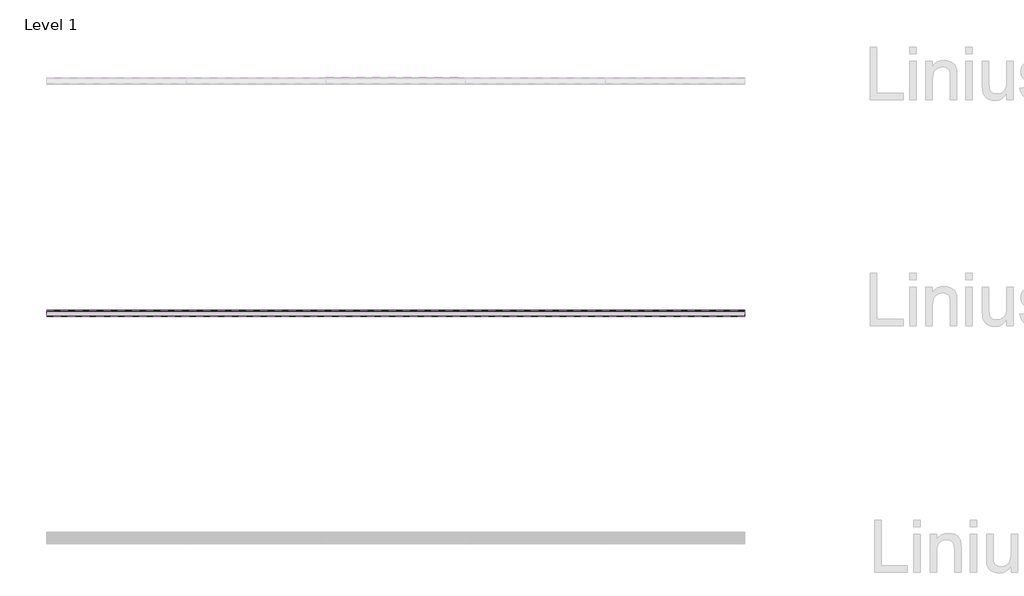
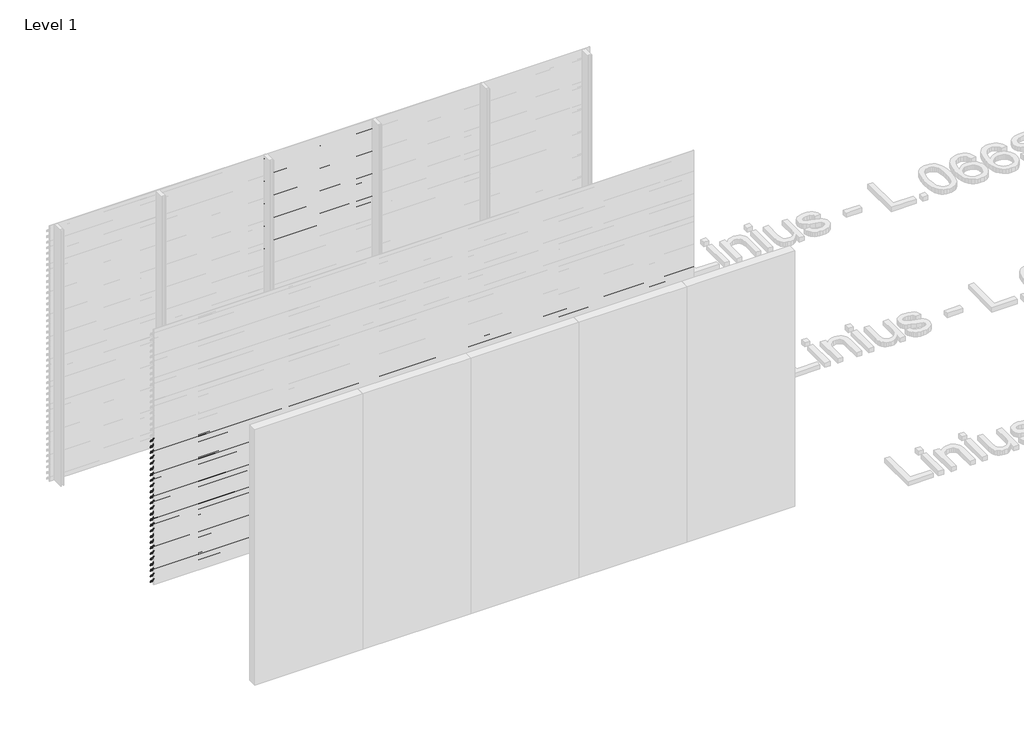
# One storey, part 127 of 540: 43 proxies.
"""IFC4 building model written with IfcOpenShell, lengths in millimetres."""

from ifc_helpers import new_model, si_unit, point, frame, frame_2d, origin, place, context, project, spatial, polyline, circle_curve, trimmed, segment, composite_curve, outline, extrude, element, save

model = new_model("IFC4")

# Units and contexts
model_context = context("Model", 3, world=origin())
ifc_project = project(units=[si_unit("LENGTHUNIT", "METRE", prefix="MILLI")], contexts=[model_context])

# Site, building, storey
site = spatial("IfcSite", under=ifc_project)
building = spatial("IfcBuilding", under=site)
storey = spatial("IfcBuildingStorey", under=building, Name="Level 1", Elevation=0.0)

# Proxies
placement = place(None, origin())
element("IfcBuildingElementProxy", 1, Name="Wall Sweeps", at=placement, inside=storey, context=model_context, shape_type="SweptSolid", body=[
    extrude(outline(composite_curve([segment(trimmed(circle_curve(frame_2d((14013.609548, 2899.7676769)), 26.4944656), [point((14030.5717655, 2920.1205608))], [point((14040.0540136, 2901.3946208))], False, "CARTESIAN"), True, "CONTINUOUS"), segment(polyline([(14040.0540136, 2901.3946208), (14040.0540136, 2893.5), (14038.8040136, 2894.2216933), (14038.8040136, 2899.7676769)]), True, "CONTINUOUS"), segment(trimmed(circle_curve(frame_2d((14013.609548, 2899.7676769)), 25.1944656), [point((14038.8040136, 2899.7676769))], [point((14029.7815085, 2919.086807))], True, "CARTESIAN"), True, "CONTINUOUS"), segment(polyline([(14029.7815085, 2919.086807), (13985.0540136, 2950.3158044), (13985.0540136, 2970.0), (13986.3040136, 2970.0), (13986.3040136, 2951.0285629), (14030.5717655, 2920.1205608)]), True, "CONTINUOUS")], self_intersect=False)), frame((91866.6208097, 0.0, 0.0), z_axis=(1.0, 0.0, 0.0), x_axis=(0.0, 1.0, 0.0)), (0.0, 0.0, 1.0), 1199.9999999),
])
element("IfcBuildingElementProxy", 2, Name="Wall Sweeps", at=placement, inside=storey, context=model_context, shape_type="SweptSolid", body=[
    extrude(outline(composite_curve([segment(trimmed(circle_curve(frame_2d((14013.609548, 2833.7676769)), 26.4944656), [point((14030.5717655, 2854.1205608))], [point((14040.0540136, 2835.3946208))], False, "CARTESIAN"), True, "CONTINUOUS"), segment(polyline([(14040.0540136, 2835.3946208), (14040.0540136, 2827.5), (14038.8040136, 2828.2216933), (14038.8040136, 2833.7676769)]), True, "CONTINUOUS"), segment(trimmed(circle_curve(frame_2d((14013.609548, 2833.7676769)), 25.1944656), [point((14038.8040136, 2833.7676769))], [point((14029.7815085, 2853.086807))], True, "CARTESIAN"), True, "CONTINUOUS"), segment(polyline([(14029.7815085, 2853.086807), (13985.0540136, 2884.3158044), (13985.0540136, 2904.0), (13986.3040136, 2904.0), (13986.3040136, 2885.0285629), (14030.5717655, 2854.1205608)]), True, "CONTINUOUS")], self_intersect=False)), frame((91866.6208097, 0.0, 0.0), z_axis=(1.0, 0.0, 0.0), x_axis=(0.0, 1.0, 0.0)), (0.0, 0.0, 1.0), 1199.9999999),
])
element("IfcBuildingElementProxy", 3, Name="Wall Sweeps", at=placement, inside=storey, context=model_context, shape_type="SweptSolid", body=[
    extrude(outline(composite_curve([segment(trimmed(circle_curve(frame_2d((14013.609548, 2767.7676769)), 26.4944656), [point((14030.5717655, 2788.1205608))], [point((14040.0540136, 2769.3946208))], False, "CARTESIAN"), True, "CONTINUOUS"), segment(polyline([(14040.0540136, 2769.3946208), (14040.0540136, 2761.5), (14038.8040136, 2762.2216933), (14038.8040136, 2767.7676769)]), True, "CONTINUOUS"), segment(trimmed(circle_curve(frame_2d((14013.609548, 2767.7676769)), 25.1944656), [point((14038.8040136, 2767.7676769))], [point((14029.7815085, 2787.086807))], True, "CARTESIAN"), True, "CONTINUOUS"), segment(polyline([(14029.7815085, 2787.086807), (13985.0540136, 2818.3158044), (13985.0540136, 2838.0), (13986.3040136, 2838.0), (13986.3040136, 2819.0285629), (14030.5717655, 2788.1205608)]), True, "CONTINUOUS")], self_intersect=False)), frame((91866.6208097, 0.0, 0.0), z_axis=(1.0, 0.0, 0.0), x_axis=(0.0, 1.0, 0.0)), (0.0, 0.0, 1.0), 1199.9999999),
])
element("IfcBuildingElementProxy", 4, Name="Wall Sweeps", at=placement, inside=storey, context=model_context, shape_type="SweptSolid", body=[
    extrude(outline(composite_curve([segment(trimmed(circle_curve(frame_2d((14013.609548, 2701.7676769)), 26.4944656), [point((14030.5717655, 2722.1205608))], [point((14040.0540136, 2703.3946208))], False, "CARTESIAN"), True, "CONTINUOUS"), segment(polyline([(14040.0540136, 2703.3946208), (14040.0540136, 2695.5), (14038.8040136, 2696.2216933), (14038.8040136, 2701.7676769)]), True, "CONTINUOUS"), segment(trimmed(circle_curve(frame_2d((14013.609548, 2701.7676769)), 25.1944656), [point((14038.8040136, 2701.7676769))], [point((14029.7815085, 2721.086807))], True, "CARTESIAN"), True, "CONTINUOUS"), segment(polyline([(14029.7815085, 2721.086807), (13985.0540136, 2752.3158044), (13985.0540136, 2772.0), (13986.3040136, 2772.0), (13986.3040136, 2753.0285629), (14030.5717655, 2722.1205608)]), True, "CONTINUOUS")], self_intersect=False)), frame((91866.6208097, 0.0, 0.0), z_axis=(1.0, 0.0, 0.0), x_axis=(0.0, 1.0, 0.0)), (0.0, 0.0, 1.0), 1199.9999999),
])
element("IfcBuildingElementProxy", 5, Name="Wall Sweeps", at=placement, inside=storey, context=model_context, shape_type="SweptSolid", body=[
    extrude(outline(composite_curve([segment(trimmed(circle_curve(frame_2d((14013.609548, 2635.7676769)), 26.4944656), [point((14030.5717655, 2656.1205608))], [point((14040.0540136, 2637.3946208))], False, "CARTESIAN"), True, "CONTINUOUS"), segment(polyline([(14040.0540136, 2637.3946208), (14040.0540136, 2629.5), (14038.8040136, 2630.2216933), (14038.8040136, 2635.7676769)]), True, "CONTINUOUS"), segment(trimmed(circle_curve(frame_2d((14013.609548, 2635.7676769)), 25.1944656), [point((14038.8040136, 2635.7676769))], [point((14029.7815085, 2655.086807))], True, "CARTESIAN"), True, "CONTINUOUS"), segment(polyline([(14029.7815085, 2655.086807), (13985.0540136, 2686.3158044), (13985.0540136, 2706.0), (13986.3040136, 2706.0), (13986.3040136, 2687.0285629), (14030.5717655, 2656.1205608)]), True, "CONTINUOUS")], self_intersect=False)), frame((91866.6208097, 0.0, 0.0), z_axis=(1.0, 0.0, 0.0), x_axis=(0.0, 1.0, 0.0)), (0.0, 0.0, 1.0), 1199.9999999),
])
element("IfcBuildingElementProxy", 6, Name="Wall Sweeps", at=placement, inside=storey, context=model_context, shape_type="SweptSolid", body=[
    extrude(outline(composite_curve([segment(trimmed(circle_curve(frame_2d((14013.609548, 2569.7676769)), 26.4944656), [point((14030.5717655, 2590.1205608))], [point((14040.0540136, 2571.3946208))], False, "CARTESIAN"), True, "CONTINUOUS"), segment(polyline([(14040.0540136, 2571.3946208), (14040.0540136, 2563.5), (14038.8040136, 2564.2216933), (14038.8040136, 2569.7676769)]), True, "CONTINUOUS"), segment(trimmed(circle_curve(frame_2d((14013.609548, 2569.7676769)), 25.1944656), [point((14038.8040136, 2569.7676769))], [point((14029.7815085, 2589.086807))], True, "CARTESIAN"), True, "CONTINUOUS"), segment(polyline([(14029.7815085, 2589.086807), (13985.0540136, 2620.3158044), (13985.0540136, 2640.0), (13986.3040136, 2640.0), (13986.3040136, 2621.0285629), (14030.5717655, 2590.1205608)]), True, "CONTINUOUS")], self_intersect=False)), frame((91866.6208097, 0.0, 0.0), z_axis=(1.0, 0.0, 0.0), x_axis=(0.0, 1.0, 0.0)), (0.0, 0.0, 1.0), 1199.9999999),
])
element("IfcBuildingElementProxy", 7, Name="Wall Sweeps", at=placement, inside=storey, context=model_context, shape_type="SweptSolid", body=[
    extrude(outline(composite_curve([segment(trimmed(circle_curve(frame_2d((14013.609548, 2503.7676769)), 26.4944656), [point((14030.5717655, 2524.1205608))], [point((14040.0540136, 2505.3946208))], False, "CARTESIAN"), True, "CONTINUOUS"), segment(polyline([(14040.0540136, 2505.3946208), (14040.0540136, 2497.5), (14038.8040136, 2498.2216933), (14038.8040136, 2503.7676769)]), True, "CONTINUOUS"), segment(trimmed(circle_curve(frame_2d((14013.609548, 2503.7676769)), 25.1944656), [point((14038.8040136, 2503.7676769))], [point((14029.7815085, 2523.086807))], True, "CARTESIAN"), True, "CONTINUOUS"), segment(polyline([(14029.7815085, 2523.086807), (13985.0540136, 2554.3158044), (13985.0540136, 2574.0), (13986.3040136, 2574.0), (13986.3040136, 2555.0285629), (14030.5717655, 2524.1205608)]), True, "CONTINUOUS")], self_intersect=False)), frame((91866.6208097, 0.0, 0.0), z_axis=(1.0, 0.0, 0.0), x_axis=(0.0, 1.0, 0.0)), (0.0, 0.0, 1.0), 1199.9999999),
])
element("IfcBuildingElementProxy", 8, Name="Wall Sweeps", at=placement, inside=storey, context=model_context, shape_type="SweptSolid", body=[
    extrude(outline(composite_curve([segment(trimmed(circle_curve(frame_2d((14013.609548, 2437.7676769)), 26.4944656), [point((14030.5717655, 2458.1205608))], [point((14040.0540136, 2439.3946208))], False, "CARTESIAN"), True, "CONTINUOUS"), segment(polyline([(14040.0540136, 2439.3946208), (14040.0540136, 2431.5), (14038.8040136, 2432.2216933), (14038.8040136, 2437.7676769)]), True, "CONTINUOUS"), segment(trimmed(circle_curve(frame_2d((14013.609548, 2437.7676769)), 25.1944656), [point((14038.8040136, 2437.7676769))], [point((14029.7815085, 2457.086807))], True, "CARTESIAN"), True, "CONTINUOUS"), segment(polyline([(14029.7815085, 2457.086807), (13985.0540136, 2488.3158044), (13985.0540136, 2508.0), (13986.3040136, 2508.0), (13986.3040136, 2489.0285629), (14030.5717655, 2458.1205608)]), True, "CONTINUOUS")], self_intersect=False)), frame((91866.6208097, 0.0, 0.0), z_axis=(1.0, 0.0, 0.0), x_axis=(0.0, 1.0, 0.0)), (0.0, 0.0, 1.0), 1199.9999999),
])
element("IfcBuildingElementProxy", 9, Name="Wall Sweeps", at=placement, inside=storey, context=model_context, shape_type="SweptSolid", body=[
    extrude(outline(composite_curve([segment(trimmed(circle_curve(frame_2d((14013.609548, 2371.7676769)), 26.4944656), [point((14030.5717655, 2392.1205608))], [point((14040.0540136, 2373.3946208))], False, "CARTESIAN"), True, "CONTINUOUS"), segment(polyline([(14040.0540136, 2373.3946208), (14040.0540136, 2365.5), (14038.8040136, 2366.2216933), (14038.8040136, 2371.7676769)]), True, "CONTINUOUS"), segment(trimmed(circle_curve(frame_2d((14013.609548, 2371.7676769)), 25.1944656), [point((14038.8040136, 2371.7676769))], [point((14029.7815085, 2391.086807))], True, "CARTESIAN"), True, "CONTINUOUS"), segment(polyline([(14029.7815085, 2391.086807), (13985.0540136, 2422.3158044), (13985.0540136, 2442.0), (13986.3040136, 2442.0), (13986.3040136, 2423.0285629), (14030.5717655, 2392.1205608)]), True, "CONTINUOUS")], self_intersect=False)), frame((91866.6208097, 0.0, 0.0), z_axis=(1.0, 0.0, 0.0), x_axis=(0.0, 1.0, 0.0)), (0.0, 0.0, 1.0), 1199.9999999),
])
element("IfcBuildingElementProxy", 10, Name="Wall Sweeps", at=placement, inside=storey, context=model_context, shape_type="SweptSolid", body=[
    extrude(outline(composite_curve([segment(trimmed(circle_curve(frame_2d((14013.609548, 2305.7676769)), 26.4944656), [point((14030.5717655, 2326.1205608))], [point((14040.0540136, 2307.3946208))], False, "CARTESIAN"), True, "CONTINUOUS"), segment(polyline([(14040.0540136, 2307.3946208), (14040.0540136, 2299.5), (14038.8040136, 2300.2216933), (14038.8040136, 2305.7676769)]), True, "CONTINUOUS"), segment(trimmed(circle_curve(frame_2d((14013.609548, 2305.7676769)), 25.1944656), [point((14038.8040136, 2305.7676769))], [point((14029.7815085, 2325.086807))], True, "CARTESIAN"), True, "CONTINUOUS"), segment(polyline([(14029.7815085, 2325.086807), (13985.0540136, 2356.3158044), (13985.0540136, 2376.0), (13986.3040136, 2376.0), (13986.3040136, 2357.0285629), (14030.5717655, 2326.1205608)]), True, "CONTINUOUS")], self_intersect=False)), frame((91866.6208097, 0.0, 0.0), z_axis=(1.0, 0.0, 0.0), x_axis=(0.0, 1.0, 0.0)), (0.0, 0.0, 1.0), 1199.9999999),
])
element("IfcBuildingElementProxy", 11, Name="Wall Sweeps", at=placement, inside=storey, context=model_context, shape_type="SweptSolid", body=[
    extrude(outline(composite_curve([segment(trimmed(circle_curve(frame_2d((14013.609548, 2239.7676769)), 26.4944656), [point((14030.5717655, 2260.1205608))], [point((14040.0540136, 2241.3946208))], False, "CARTESIAN"), True, "CONTINUOUS"), segment(polyline([(14040.0540136, 2241.3946208), (14040.0540136, 2233.5), (14038.8040136, 2234.2216933), (14038.8040136, 2239.7676769)]), True, "CONTINUOUS"), segment(trimmed(circle_curve(frame_2d((14013.609548, 2239.7676769)), 25.1944656), [point((14038.8040136, 2239.7676769))], [point((14029.7815085, 2259.086807))], True, "CARTESIAN"), True, "CONTINUOUS"), segment(polyline([(14029.7815085, 2259.086807), (13985.0540136, 2290.3158044), (13985.0540136, 2310.0), (13986.3040136, 2310.0), (13986.3040136, 2291.0285629), (14030.5717655, 2260.1205608)]), True, "CONTINUOUS")], self_intersect=False)), frame((91866.6208097, 0.0, 0.0), z_axis=(1.0, 0.0, 0.0), x_axis=(0.0, 1.0, 0.0)), (0.0, 0.0, 1.0), 1199.9999999),
])
element("IfcBuildingElementProxy", 12, Name="Wall Sweeps", at=placement, inside=storey, context=model_context, shape_type="SweptSolid", body=[
    extrude(outline(composite_curve([segment(trimmed(circle_curve(frame_2d((14013.609548, 2173.7676769)), 26.4944656), [point((14030.5717655, 2194.1205608))], [point((14040.0540136, 2175.3946208))], False, "CARTESIAN"), True, "CONTINUOUS"), segment(polyline([(14040.0540136, 2175.3946208), (14040.0540136, 2167.5), (14038.8040136, 2168.2216933), (14038.8040136, 2173.7676769)]), True, "CONTINUOUS"), segment(trimmed(circle_curve(frame_2d((14013.609548, 2173.7676769)), 25.1944656), [point((14038.8040136, 2173.7676769))], [point((14029.7815085, 2193.086807))], True, "CARTESIAN"), True, "CONTINUOUS"), segment(polyline([(14029.7815085, 2193.086807), (13985.0540136, 2224.3158044), (13985.0540136, 2244.0), (13986.3040136, 2244.0), (13986.3040136, 2225.0285629), (14030.5717655, 2194.1205608)]), True, "CONTINUOUS")], self_intersect=False)), frame((91866.6208097, 0.0, 0.0), z_axis=(1.0, 0.0, 0.0), x_axis=(0.0, 1.0, 0.0)), (0.0, 0.0, 1.0), 1199.9999999),
])
element("IfcBuildingElementProxy", 13, Name="Wall Sweeps", at=placement, inside=storey, context=model_context, shape_type="SweptSolid", body=[
    extrude(outline(composite_curve([segment(trimmed(circle_curve(frame_2d((14013.609548, 2107.7676769)), 26.4944656), [point((14030.5717655, 2128.1205608))], [point((14040.0540136, 2109.3946208))], False, "CARTESIAN"), True, "CONTINUOUS"), segment(polyline([(14040.0540136, 2109.3946208), (14040.0540136, 2101.5), (14038.8040136, 2102.2216933), (14038.8040136, 2107.7676769)]), True, "CONTINUOUS"), segment(trimmed(circle_curve(frame_2d((14013.609548, 2107.7676769)), 25.1944656), [point((14038.8040136, 2107.7676769))], [point((14029.7815085, 2127.086807))], True, "CARTESIAN"), True, "CONTINUOUS"), segment(polyline([(14029.7815085, 2127.086807), (13985.0540136, 2158.3158044), (13985.0540136, 2178.0), (13986.3040136, 2178.0), (13986.3040136, 2159.0285629), (14030.5717655, 2128.1205608)]), True, "CONTINUOUS")], self_intersect=False)), frame((91866.6208097, 0.0, 0.0), z_axis=(1.0, 0.0, 0.0), x_axis=(0.0, 1.0, 0.0)), (0.0, 0.0, 1.0), 1199.9999999),
])
element("IfcBuildingElementProxy", 14, Name="Wall Sweeps", at=placement, inside=storey, context=model_context, shape_type="SweptSolid", body=[
    extrude(outline(composite_curve([segment(trimmed(circle_curve(frame_2d((14013.609548, 2041.7676769)), 26.4944656), [point((14030.5717655, 2062.1205608))], [point((14040.0540136, 2043.3946208))], False, "CARTESIAN"), True, "CONTINUOUS"), segment(polyline([(14040.0540136, 2043.3946208), (14040.0540136, 2035.5), (14038.8040136, 2036.2216933), (14038.8040136, 2041.7676769)]), True, "CONTINUOUS"), segment(trimmed(circle_curve(frame_2d((14013.609548, 2041.7676769)), 25.1944656), [point((14038.8040136, 2041.7676769))], [point((14029.7815085, 2061.086807))], True, "CARTESIAN"), True, "CONTINUOUS"), segment(polyline([(14029.7815085, 2061.086807), (13985.0540136, 2092.3158044), (13985.0540136, 2112.0), (13986.3040136, 2112.0), (13986.3040136, 2093.0285629), (14030.5717655, 2062.1205608)]), True, "CONTINUOUS")], self_intersect=False)), frame((91866.6208097, 0.0, 0.0), z_axis=(1.0, 0.0, 0.0), x_axis=(0.0, 1.0, 0.0)), (0.0, 0.0, 1.0), 1199.9999999),
])
element("IfcBuildingElementProxy", 15, Name="Wall Sweeps", at=placement, inside=storey, context=model_context, shape_type="SweptSolid", body=[
    extrude(outline(composite_curve([segment(trimmed(circle_curve(frame_2d((14013.609548, 1975.7676769)), 26.4944656), [point((14030.5717655, 1996.1205608))], [point((14040.0540136, 1977.3946208))], False, "CARTESIAN"), True, "CONTINUOUS"), segment(polyline([(14040.0540136, 1977.3946208), (14040.0540136, 1969.5), (14038.8040136, 1970.2216933), (14038.8040136, 1975.7676769)]), True, "CONTINUOUS"), segment(trimmed(circle_curve(frame_2d((14013.609548, 1975.7676769)), 25.1944656), [point((14038.8040136, 1975.7676769))], [point((14029.7815085, 1995.086807))], True, "CARTESIAN"), True, "CONTINUOUS"), segment(polyline([(14029.7815085, 1995.086807), (13985.0540136, 2026.3158044), (13985.0540136, 2046.0), (13986.3040136, 2046.0), (13986.3040136, 2027.0285629), (14030.5717655, 1996.1205608)]), True, "CONTINUOUS")], self_intersect=False)), frame((91866.6208097, 0.0, 0.0), z_axis=(1.0, 0.0, 0.0), x_axis=(0.0, 1.0, 0.0)), (0.0, 0.0, 1.0), 1199.9999999),
])
element("IfcBuildingElementProxy", 16, Name="Wall Sweeps", at=placement, inside=storey, context=model_context, shape_type="SweptSolid", body=[
    extrude(outline(composite_curve([segment(trimmed(circle_curve(frame_2d((14013.609548, 1909.7676769)), 26.4944656), [point((14030.5717655, 1930.1205608))], [point((14040.0540136, 1911.3946208))], False, "CARTESIAN"), True, "CONTINUOUS"), segment(polyline([(14040.0540136, 1911.3946208), (14040.0540136, 1903.5), (14038.8040136, 1904.2216933), (14038.8040136, 1909.7676769)]), True, "CONTINUOUS"), segment(trimmed(circle_curve(frame_2d((14013.609548, 1909.7676769)), 25.1944656), [point((14038.8040136, 1909.7676769))], [point((14029.7815085, 1929.086807))], True, "CARTESIAN"), True, "CONTINUOUS"), segment(polyline([(14029.7815085, 1929.086807), (13985.0540136, 1960.3158044), (13985.0540136, 1980.0), (13986.3040136, 1980.0), (13986.3040136, 1961.0285629), (14030.5717655, 1930.1205608)]), True, "CONTINUOUS")], self_intersect=False)), frame((91866.6208097, 0.0, 0.0), z_axis=(1.0, 0.0, 0.0), x_axis=(0.0, 1.0, 0.0)), (0.0, 0.0, 1.0), 1199.9999999),
])
element("IfcBuildingElementProxy", 17, Name="Wall Sweeps", at=placement, inside=storey, context=model_context, shape_type="SweptSolid", body=[
    extrude(outline(composite_curve([segment(trimmed(circle_curve(frame_2d((14013.609548, 1843.7676769)), 26.4944656), [point((14030.5717655, 1864.1205608))], [point((14040.0540136, 1845.3946208))], False, "CARTESIAN"), True, "CONTINUOUS"), segment(polyline([(14040.0540136, 1845.3946208), (14040.0540136, 1837.5), (14038.8040136, 1838.2216933), (14038.8040136, 1843.7676769)]), True, "CONTINUOUS"), segment(trimmed(circle_curve(frame_2d((14013.609548, 1843.7676769)), 25.1944656), [point((14038.8040136, 1843.7676769))], [point((14029.7815085, 1863.086807))], True, "CARTESIAN"), True, "CONTINUOUS"), segment(polyline([(14029.7815085, 1863.086807), (13985.0540136, 1894.3158044), (13985.0540136, 1914.0), (13986.3040136, 1914.0), (13986.3040136, 1895.0285629), (14030.5717655, 1864.1205608)]), True, "CONTINUOUS")], self_intersect=False)), frame((91866.6208097, 0.0, 0.0), z_axis=(1.0, 0.0, 0.0), x_axis=(0.0, 1.0, 0.0)), (0.0, 0.0, 1.0), 1199.9999999),
])
element("IfcBuildingElementProxy", 18, Name="Wall Sweeps", at=placement, inside=storey, context=model_context, shape_type="SweptSolid", body=[
    extrude(outline(composite_curve([segment(trimmed(circle_curve(frame_2d((12013.609548, 1645.7676769)), 26.4944656), [point((12030.5717655, 1666.1205608))], [point((12040.0540136, 1647.3946208))], False, "CARTESIAN"), True, "CONTINUOUS"), segment(polyline([(12040.0540136, 1647.3946208), (12040.0540136, 1639.5), (12038.8040136, 1640.2216933), (12038.8040136, 1645.7676769)]), True, "CONTINUOUS"), segment(trimmed(circle_curve(frame_2d((12013.609548, 1645.7676769)), 25.1944656), [point((12038.8040136, 1645.7676769))], [point((12029.7815085, 1665.086807))], True, "CARTESIAN"), True, "CONTINUOUS"), segment(polyline([(12029.7815085, 1665.086807), (11985.0540136, 1696.3158044), (11985.0540136, 1716.0), (11986.3040136, 1716.0), (11986.3040136, 1697.0285629), (12030.5717655, 1666.1205608)]), True, "CONTINUOUS")], self_intersect=False)), frame((89466.6208097, 0.0, 0.0), z_axis=(1.0, 0.0, 0.0), x_axis=(0.0, 1.0, 0.0)), (0.0, 0.0, 1.0), 6000.0),
])
element("IfcBuildingElementProxy", 19, Name="Wall Sweeps", at=placement, inside=storey, context=model_context, shape_type="SweptSolid", body=[
    extrude(outline(composite_curve([segment(trimmed(circle_curve(frame_2d((12013.609548, 1579.7676769)), 26.4944656), [point((12030.5717655, 1600.1205608))], [point((12040.0540136, 1581.3946208))], False, "CARTESIAN"), True, "CONTINUOUS"), segment(polyline([(12040.0540136, 1581.3946208), (12040.0540136, 1573.5), (12038.8040136, 1574.2216933), (12038.8040136, 1579.7676769)]), True, "CONTINUOUS"), segment(trimmed(circle_curve(frame_2d((12013.609548, 1579.7676769)), 25.1944656), [point((12038.8040136, 1579.7676769))], [point((12029.7815085, 1599.086807))], True, "CARTESIAN"), True, "CONTINUOUS"), segment(polyline([(12029.7815085, 1599.086807), (11985.0540136, 1630.3158044), (11985.0540136, 1650.0), (11986.3040136, 1650.0), (11986.3040136, 1631.0285629), (12030.5717655, 1600.1205608)]), True, "CONTINUOUS")], self_intersect=False)), frame((89466.6208097, 0.0, 0.0), z_axis=(1.0, 0.0, 0.0), x_axis=(0.0, 1.0, 0.0)), (0.0, 0.0, 1.0), 6000.0),
])
element("IfcBuildingElementProxy", 20, Name="Wall Sweeps", at=placement, inside=storey, context=model_context, shape_type="SweptSolid", body=[
    extrude(outline(composite_curve([segment(trimmed(circle_curve(frame_2d((12013.609548, 1513.7676769)), 26.4944656), [point((12030.5717655, 1534.1205608))], [point((12040.0540136, 1515.3946208))], False, "CARTESIAN"), True, "CONTINUOUS"), segment(polyline([(12040.0540136, 1515.3946208), (12040.0540136, 1507.5), (12038.8040136, 1508.2216933), (12038.8040136, 1513.7676769)]), True, "CONTINUOUS"), segment(trimmed(circle_curve(frame_2d((12013.609548, 1513.7676769)), 25.1944656), [point((12038.8040136, 1513.7676769))], [point((12029.7815085, 1533.086807))], True, "CARTESIAN"), True, "CONTINUOUS"), segment(polyline([(12029.7815085, 1533.086807), (11985.0540136, 1564.3158044), (11985.0540136, 1584.0), (11986.3040136, 1584.0), (11986.3040136, 1565.0285629), (12030.5717655, 1534.1205608)]), True, "CONTINUOUS")], self_intersect=False)), frame((89466.6208097, 0.0, 0.0), z_axis=(1.0, 0.0, 0.0), x_axis=(0.0, 1.0, 0.0)), (0.0, 0.0, 1.0), 6000.0),
])
element("IfcBuildingElementProxy", 21, Name="Wall Sweeps", at=placement, inside=storey, context=model_context, shape_type="SweptSolid", body=[
    extrude(outline(composite_curve([segment(trimmed(circle_curve(frame_2d((12013.609548, 1447.7676769)), 26.4944656), [point((12030.5717655, 1468.1205608))], [point((12040.0540136, 1449.3946208))], False, "CARTESIAN"), True, "CONTINUOUS"), segment(polyline([(12040.0540136, 1449.3946208), (12040.0540136, 1441.5), (12038.8040136, 1442.2216933), (12038.8040136, 1447.7676769)]), True, "CONTINUOUS"), segment(trimmed(circle_curve(frame_2d((12013.609548, 1447.7676769)), 25.1944656), [point((12038.8040136, 1447.7676769))], [point((12029.7815085, 1467.086807))], True, "CARTESIAN"), True, "CONTINUOUS"), segment(polyline([(12029.7815085, 1467.086807), (11985.0540136, 1498.3158044), (11985.0540136, 1518.0), (11986.3040136, 1518.0), (11986.3040136, 1499.0285629), (12030.5717655, 1468.1205608)]), True, "CONTINUOUS")], self_intersect=False)), frame((89466.6208097, 0.0, 0.0), z_axis=(1.0, 0.0, 0.0), x_axis=(0.0, 1.0, 0.0)), (0.0, 0.0, 1.0), 6000.0),
])
element("IfcBuildingElementProxy", 22, Name="Wall Sweeps", at=placement, inside=storey, context=model_context, shape_type="SweptSolid", body=[
    extrude(outline(composite_curve([segment(trimmed(circle_curve(frame_2d((12013.609548, 1381.7676769)), 26.4944656), [point((12030.5717655, 1402.1205608))], [point((12040.0540136, 1383.3946208))], False, "CARTESIAN"), True, "CONTINUOUS"), segment(polyline([(12040.0540136, 1383.3946208), (12040.0540136, 1375.5), (12038.8040136, 1376.2216933), (12038.8040136, 1381.7676769)]), True, "CONTINUOUS"), segment(trimmed(circle_curve(frame_2d((12013.609548, 1381.7676769)), 25.1944656), [point((12038.8040136, 1381.7676769))], [point((12029.7815085, 1401.086807))], True, "CARTESIAN"), True, "CONTINUOUS"), segment(polyline([(12029.7815085, 1401.086807), (11985.0540136, 1432.3158044), (11985.0540136, 1452.0), (11986.3040136, 1452.0), (11986.3040136, 1433.0285629), (12030.5717655, 1402.1205608)]), True, "CONTINUOUS")], self_intersect=False)), frame((89466.6208097, 0.0, 0.0), z_axis=(1.0, 0.0, 0.0), x_axis=(0.0, 1.0, 0.0)), (0.0, 0.0, 1.0), 6000.0),
])
element("IfcBuildingElementProxy", 23, Name="Wall Sweeps", at=placement, inside=storey, context=model_context, shape_type="SweptSolid", body=[
    extrude(outline(composite_curve([segment(trimmed(circle_curve(frame_2d((12013.609548, 1315.7676769)), 26.4944656), [point((12030.5717655, 1336.1205608))], [point((12040.0540136, 1317.3946208))], False, "CARTESIAN"), True, "CONTINUOUS"), segment(polyline([(12040.0540136, 1317.3946208), (12040.0540136, 1309.5), (12038.8040136, 1310.2216933), (12038.8040136, 1315.7676769)]), True, "CONTINUOUS"), segment(trimmed(circle_curve(frame_2d((12013.609548, 1315.7676769)), 25.1944656), [point((12038.8040136, 1315.7676769))], [point((12029.7815085, 1335.086807))], True, "CARTESIAN"), True, "CONTINUOUS"), segment(polyline([(12029.7815085, 1335.086807), (11985.0540136, 1366.3158044), (11985.0540136, 1386.0), (11986.3040136, 1386.0), (11986.3040136, 1367.0285629), (12030.5717655, 1336.1205608)]), True, "CONTINUOUS")], self_intersect=False)), frame((89466.6208097, 0.0, 0.0), z_axis=(1.0, 0.0, 0.0), x_axis=(0.0, 1.0, 0.0)), (0.0, 0.0, 1.0), 6000.0),
])
element("IfcBuildingElementProxy", 24, Name="Wall Sweeps", at=placement, inside=storey, context=model_context, shape_type="SweptSolid", body=[
    extrude(outline(composite_curve([segment(trimmed(circle_curve(frame_2d((12013.609548, 1249.7676769)), 26.4944656), [point((12030.5717655, 1270.1205608))], [point((12040.0540136, 1251.3946208))], False, "CARTESIAN"), True, "CONTINUOUS"), segment(polyline([(12040.0540136, 1251.3946208), (12040.0540136, 1243.5), (12038.8040136, 1244.2216933), (12038.8040136, 1249.7676769)]), True, "CONTINUOUS"), segment(trimmed(circle_curve(frame_2d((12013.609548, 1249.7676769)), 25.1944656), [point((12038.8040136, 1249.7676769))], [point((12029.7815085, 1269.086807))], True, "CARTESIAN"), True, "CONTINUOUS"), segment(polyline([(12029.7815085, 1269.086807), (11985.0540136, 1300.3158044), (11985.0540136, 1320.0), (11986.3040136, 1320.0), (11986.3040136, 1301.0285629), (12030.5717655, 1270.1205608)]), True, "CONTINUOUS")], self_intersect=False)), frame((89466.6208097, 0.0, 0.0), z_axis=(1.0, 0.0, 0.0), x_axis=(0.0, 1.0, 0.0)), (0.0, 0.0, 1.0), 6000.0),
])
element("IfcBuildingElementProxy", 25, Name="Wall Sweeps", at=placement, inside=storey, context=model_context, shape_type="SweptSolid", body=[
    extrude(outline(composite_curve([segment(trimmed(circle_curve(frame_2d((12013.609548, 1183.7676769)), 26.4944656), [point((12030.5717655, 1204.1205608))], [point((12040.0540136, 1185.3946208))], False, "CARTESIAN"), True, "CONTINUOUS"), segment(polyline([(12040.0540136, 1185.3946208), (12040.0540136, 1177.5), (12038.8040136, 1178.2216933), (12038.8040136, 1183.7676769)]), True, "CONTINUOUS"), segment(trimmed(circle_curve(frame_2d((12013.609548, 1183.7676769)), 25.1944656), [point((12038.8040136, 1183.7676769))], [point((12029.7815085, 1203.086807))], True, "CARTESIAN"), True, "CONTINUOUS"), segment(polyline([(12029.7815085, 1203.086807), (11985.0540136, 1234.3158044), (11985.0540136, 1254.0), (11986.3040136, 1254.0), (11986.3040136, 1235.0285629), (12030.5717655, 1204.1205608)]), True, "CONTINUOUS")], self_intersect=False)), frame((89466.6208097, 0.0, 0.0), z_axis=(1.0, 0.0, 0.0), x_axis=(0.0, 1.0, 0.0)), (0.0, 0.0, 1.0), 6000.0),
])
element("IfcBuildingElementProxy", 26, Name="Wall Sweeps", at=placement, inside=storey, context=model_context, shape_type="SweptSolid", body=[
    extrude(outline(composite_curve([segment(trimmed(circle_curve(frame_2d((12013.609548, 1117.7676769)), 26.4944656), [point((12030.5717655, 1138.1205608))], [point((12040.0540136, 1119.3946208))], False, "CARTESIAN"), True, "CONTINUOUS"), segment(polyline([(12040.0540136, 1119.3946208), (12040.0540136, 1111.5), (12038.8040136, 1112.2216933), (12038.8040136, 1117.7676769)]), True, "CONTINUOUS"), segment(trimmed(circle_curve(frame_2d((12013.609548, 1117.7676769)), 25.1944656), [point((12038.8040136, 1117.7676769))], [point((12029.7815085, 1137.086807))], True, "CARTESIAN"), True, "CONTINUOUS"), segment(polyline([(12029.7815085, 1137.086807), (11985.0540136, 1168.3158044), (11985.0540136, 1188.0), (11986.3040136, 1188.0), (11986.3040136, 1169.0285629), (12030.5717655, 1138.1205608)]), True, "CONTINUOUS")], self_intersect=False)), frame((89466.6208097, 0.0, 0.0), z_axis=(1.0, 0.0, 0.0), x_axis=(0.0, 1.0, 0.0)), (0.0, 0.0, 1.0), 6000.0),
])
element("IfcBuildingElementProxy", 27, Name="Wall Sweeps", at=placement, inside=storey, context=model_context, shape_type="SweptSolid", body=[
    extrude(outline(composite_curve([segment(trimmed(circle_curve(frame_2d((12013.609548, 1051.7676769)), 26.4944656), [point((12030.5717655, 1072.1205608))], [point((12040.0540136, 1053.3946208))], False, "CARTESIAN"), True, "CONTINUOUS"), segment(polyline([(12040.0540136, 1053.3946208), (12040.0540136, 1045.5), (12038.8040136, 1046.2216933), (12038.8040136, 1051.7676769)]), True, "CONTINUOUS"), segment(trimmed(circle_curve(frame_2d((12013.609548, 1051.7676769)), 25.1944656), [point((12038.8040136, 1051.7676769))], [point((12029.7815085, 1071.086807))], True, "CARTESIAN"), True, "CONTINUOUS"), segment(polyline([(12029.7815085, 1071.086807), (11985.0540136, 1102.3158044), (11985.0540136, 1122.0), (11986.3040136, 1122.0), (11986.3040136, 1103.0285629), (12030.5717655, 1072.1205608)]), True, "CONTINUOUS")], self_intersect=False)), frame((89466.6208097, 0.0, 0.0), z_axis=(1.0, 0.0, 0.0), x_axis=(0.0, 1.0, 0.0)), (0.0, 0.0, 1.0), 6000.0),
])
element("IfcBuildingElementProxy", 28, Name="Wall Sweeps", at=placement, inside=storey, context=model_context, shape_type="SweptSolid", body=[
    extrude(outline(composite_curve([segment(trimmed(circle_curve(frame_2d((12013.609548, 985.7676769)), 26.4944656), [point((12030.5717655, 1006.1205608))], [point((12040.0540136, 987.3946208))], False, "CARTESIAN"), True, "CONTINUOUS"), segment(polyline([(12040.0540136, 987.3946208), (12040.0540136, 979.5), (12038.8040136, 980.2216933), (12038.8040136, 985.7676769)]), True, "CONTINUOUS"), segment(trimmed(circle_curve(frame_2d((12013.609548, 985.7676769)), 25.1944656), [point((12038.8040136, 985.7676769))], [point((12029.7815085, 1005.086807))], True, "CARTESIAN"), True, "CONTINUOUS"), segment(polyline([(12029.7815085, 1005.086807), (11985.0540136, 1036.3158044), (11985.0540136, 1056.0), (11986.3040136, 1056.0), (11986.3040136, 1037.0285629), (12030.5717655, 1006.1205608)]), True, "CONTINUOUS")], self_intersect=False)), frame((89466.6208097, 0.0, 0.0), z_axis=(1.0, 0.0, 0.0), x_axis=(0.0, 1.0, 0.0)), (0.0, 0.0, 1.0), 6000.0),
])
element("IfcBuildingElementProxy", 29, Name="Wall Sweeps", at=placement, inside=storey, context=model_context, shape_type="SweptSolid", body=[
    extrude(outline(composite_curve([segment(trimmed(circle_curve(frame_2d((12013.609548, 919.7676769)), 26.4944656), [point((12030.5717655, 940.1205608))], [point((12040.0540136, 921.3946208))], False, "CARTESIAN"), True, "CONTINUOUS"), segment(polyline([(12040.0540136, 921.3946208), (12040.0540136, 913.5), (12038.8040136, 914.2216933), (12038.8040136, 919.7676769)]), True, "CONTINUOUS"), segment(trimmed(circle_curve(frame_2d((12013.609548, 919.7676769)), 25.1944656), [point((12038.8040136, 919.7676769))], [point((12029.7815085, 939.086807))], True, "CARTESIAN"), True, "CONTINUOUS"), segment(polyline([(12029.7815085, 939.086807), (11985.0540136, 970.3158044), (11985.0540136, 990.0), (11986.3040136, 990.0), (11986.3040136, 971.0285629), (12030.5717655, 940.1205608)]), True, "CONTINUOUS")], self_intersect=False)), frame((89466.6208097, 0.0, 0.0), z_axis=(1.0, 0.0, 0.0), x_axis=(0.0, 1.0, 0.0)), (0.0, 0.0, 1.0), 6000.0),
])
element("IfcBuildingElementProxy", 30, Name="Wall Sweeps", at=placement, inside=storey, context=model_context, shape_type="SweptSolid", body=[
    extrude(outline(composite_curve([segment(trimmed(circle_curve(frame_2d((12013.609548, 853.7676769)), 26.4944656), [point((12030.5717655, 874.1205608))], [point((12040.0540136, 855.3946208))], False, "CARTESIAN"), True, "CONTINUOUS"), segment(polyline([(12040.0540136, 855.3946208), (12040.0540136, 847.5), (12038.8040136, 848.2216933), (12038.8040136, 853.7676769)]), True, "CONTINUOUS"), segment(trimmed(circle_curve(frame_2d((12013.609548, 853.7676769)), 25.1944656), [point((12038.8040136, 853.7676769))], [point((12029.7815085, 873.086807))], True, "CARTESIAN"), True, "CONTINUOUS"), segment(polyline([(12029.7815085, 873.086807), (11985.0540136, 904.3158044), (11985.0540136, 924.0), (11986.3040136, 924.0), (11986.3040136, 905.0285629), (12030.5717655, 874.1205608)]), True, "CONTINUOUS")], self_intersect=False)), frame((89466.6208097, 0.0, 0.0), z_axis=(1.0, 0.0, 0.0), x_axis=(0.0, 1.0, 0.0)), (0.0, 0.0, 1.0), 6000.0),
])
element("IfcBuildingElementProxy", 31, Name="Wall Sweeps", at=placement, inside=storey, context=model_context, shape_type="SweptSolid", body=[
    extrude(outline(composite_curve([segment(trimmed(circle_curve(frame_2d((12013.609548, 787.7676769)), 26.4944656), [point((12030.5717655, 808.1205608))], [point((12040.0540136, 789.3946208))], False, "CARTESIAN"), True, "CONTINUOUS"), segment(polyline([(12040.0540136, 789.3946208), (12040.0540136, 781.5), (12038.8040136, 782.2216933), (12038.8040136, 787.7676769)]), True, "CONTINUOUS"), segment(trimmed(circle_curve(frame_2d((12013.609548, 787.7676769)), 25.1944656), [point((12038.8040136, 787.7676769))], [point((12029.7815085, 807.086807))], True, "CARTESIAN"), True, "CONTINUOUS"), segment(polyline([(12029.7815085, 807.086807), (11985.0540136, 838.3158044), (11985.0540136, 858.0), (11986.3040136, 858.0), (11986.3040136, 839.0285629), (12030.5717655, 808.1205608)]), True, "CONTINUOUS")], self_intersect=False)), frame((89466.6208097, 0.0, 0.0), z_axis=(1.0, 0.0, 0.0), x_axis=(0.0, 1.0, 0.0)), (0.0, 0.0, 1.0), 6000.0),
])
element("IfcBuildingElementProxy", 32, Name="Wall Sweeps", at=placement, inside=storey, context=model_context, shape_type="SweptSolid", body=[
    extrude(outline(composite_curve([segment(trimmed(circle_curve(frame_2d((12013.609548, 721.7676769)), 26.4944656), [point((12030.5717655, 742.1205608))], [point((12040.0540136, 723.3946208))], False, "CARTESIAN"), True, "CONTINUOUS"), segment(polyline([(12040.0540136, 723.3946208), (12040.0540136, 715.5), (12038.8040136, 716.2216933), (12038.8040136, 721.7676769)]), True, "CONTINUOUS"), segment(trimmed(circle_curve(frame_2d((12013.609548, 721.7676769)), 25.1944656), [point((12038.8040136, 721.7676769))], [point((12029.7815085, 741.086807))], True, "CARTESIAN"), True, "CONTINUOUS"), segment(polyline([(12029.7815085, 741.086807), (11985.0540136, 772.3158044), (11985.0540136, 792.0), (11986.3040136, 792.0), (11986.3040136, 773.0285629), (12030.5717655, 742.1205608)]), True, "CONTINUOUS")], self_intersect=False)), frame((89466.6208097, 0.0, 0.0), z_axis=(1.0, 0.0, 0.0), x_axis=(0.0, 1.0, 0.0)), (0.0, 0.0, 1.0), 6000.0),
])
element("IfcBuildingElementProxy", 33, Name="Wall Sweeps", at=placement, inside=storey, context=model_context, shape_type="SweptSolid", body=[
    extrude(outline(composite_curve([segment(trimmed(circle_curve(frame_2d((12013.609548, 655.7676769)), 26.4944656), [point((12030.5717655, 676.1205608))], [point((12040.0540136, 657.3946208))], False, "CARTESIAN"), True, "CONTINUOUS"), segment(polyline([(12040.0540136, 657.3946208), (12040.0540136, 649.5), (12038.8040136, 650.2216933), (12038.8040136, 655.7676769)]), True, "CONTINUOUS"), segment(trimmed(circle_curve(frame_2d((12013.609548, 655.7676769)), 25.1944656), [point((12038.8040136, 655.7676769))], [point((12029.7815085, 675.086807))], True, "CARTESIAN"), True, "CONTINUOUS"), segment(polyline([(12029.7815085, 675.086807), (11985.0540136, 706.3158044), (11985.0540136, 726.0), (11986.3040136, 726.0), (11986.3040136, 707.0285629), (12030.5717655, 676.1205608)]), True, "CONTINUOUS")], self_intersect=False)), frame((89466.6208097, 0.0, 0.0), z_axis=(1.0, 0.0, 0.0), x_axis=(0.0, 1.0, 0.0)), (0.0, 0.0, 1.0), 6000.0),
])
element("IfcBuildingElementProxy", 34, Name="Wall Sweeps", at=placement, inside=storey, context=model_context, shape_type="SweptSolid", body=[
    extrude(outline(composite_curve([segment(trimmed(circle_curve(frame_2d((12013.609548, 589.7676769)), 26.4944656), [point((12030.5717655, 610.1205608))], [point((12040.0540136, 591.3946208))], False, "CARTESIAN"), True, "CONTINUOUS"), segment(polyline([(12040.0540136, 591.3946208), (12040.0540136, 583.5), (12038.8040136, 584.2216933), (12038.8040136, 589.7676769)]), True, "CONTINUOUS"), segment(trimmed(circle_curve(frame_2d((12013.609548, 589.7676769)), 25.1944656), [point((12038.8040136, 589.7676769))], [point((12029.7815085, 609.086807))], True, "CARTESIAN"), True, "CONTINUOUS"), segment(polyline([(12029.7815085, 609.086807), (11985.0540136, 640.3158044), (11985.0540136, 660.0), (11986.3040136, 660.0), (11986.3040136, 641.0285629), (12030.5717655, 610.1205608)]), True, "CONTINUOUS")], self_intersect=False)), frame((89466.6208097, 0.0, 0.0), z_axis=(1.0, 0.0, 0.0), x_axis=(0.0, 1.0, 0.0)), (0.0, 0.0, 1.0), 6000.0),
])
element("IfcBuildingElementProxy", 35, Name="Wall Sweeps", at=placement, inside=storey, context=model_context, shape_type="SweptSolid", body=[
    extrude(outline(composite_curve([segment(trimmed(circle_curve(frame_2d((12013.609548, 523.7676769)), 26.4944656), [point((12030.5717655, 544.1205608))], [point((12040.0540136, 525.3946208))], False, "CARTESIAN"), True, "CONTINUOUS"), segment(polyline([(12040.0540136, 525.3946208), (12040.0540136, 517.5), (12038.8040136, 518.2216933), (12038.8040136, 523.7676769)]), True, "CONTINUOUS"), segment(trimmed(circle_curve(frame_2d((12013.609548, 523.7676769)), 25.1944656), [point((12038.8040136, 523.7676769))], [point((12029.7815085, 543.086807))], True, "CARTESIAN"), True, "CONTINUOUS"), segment(polyline([(12029.7815085, 543.086807), (11985.0540136, 574.3158044), (11985.0540136, 594.0), (11986.3040136, 594.0), (11986.3040136, 575.0285629), (12030.5717655, 544.1205608)]), True, "CONTINUOUS")], self_intersect=False)), frame((89466.6208097, 0.0, 0.0), z_axis=(1.0, 0.0, 0.0), x_axis=(0.0, 1.0, 0.0)), (0.0, 0.0, 1.0), 6000.0),
])
element("IfcBuildingElementProxy", 36, Name="Wall Sweeps", at=placement, inside=storey, context=model_context, shape_type="SweptSolid", body=[
    extrude(outline(composite_curve([segment(trimmed(circle_curve(frame_2d((12013.609548, 457.7676769)), 26.4944656), [point((12030.5717655, 478.1205608))], [point((12040.0540136, 459.3946208))], False, "CARTESIAN"), True, "CONTINUOUS"), segment(polyline([(12040.0540136, 459.3946208), (12040.0540136, 451.5), (12038.8040136, 452.2216933), (12038.8040136, 457.7676769)]), True, "CONTINUOUS"), segment(trimmed(circle_curve(frame_2d((12013.609548, 457.7676769)), 25.1944656), [point((12038.8040136, 457.7676769))], [point((12029.7815085, 477.086807))], True, "CARTESIAN"), True, "CONTINUOUS"), segment(polyline([(12029.7815085, 477.086807), (11985.0540136, 508.3158044), (11985.0540136, 528.0), (11986.3040136, 528.0), (11986.3040136, 509.0285629), (12030.5717655, 478.1205608)]), True, "CONTINUOUS")], self_intersect=False)), frame((89466.6208097, 0.0, 0.0), z_axis=(1.0, 0.0, 0.0), x_axis=(0.0, 1.0, 0.0)), (0.0, 0.0, 1.0), 6000.0),
])
element("IfcBuildingElementProxy", 37, Name="Wall Sweeps", at=placement, inside=storey, context=model_context, shape_type="SweptSolid", body=[
    extrude(outline(composite_curve([segment(trimmed(circle_curve(frame_2d((12013.609548, 391.7676769)), 26.4944656), [point((12030.5717655, 412.1205608))], [point((12040.0540136, 393.3946208))], False, "CARTESIAN"), True, "CONTINUOUS"), segment(polyline([(12040.0540136, 393.3946208), (12040.0540136, 385.5), (12038.8040136, 386.2216933), (12038.8040136, 391.7676769)]), True, "CONTINUOUS"), segment(trimmed(circle_curve(frame_2d((12013.609548, 391.7676769)), 25.1944656), [point((12038.8040136, 391.7676769))], [point((12029.7815085, 411.086807))], True, "CARTESIAN"), True, "CONTINUOUS"), segment(polyline([(12029.7815085, 411.086807), (11985.0540136, 442.3158044), (11985.0540136, 462.0), (11986.3040136, 462.0), (11986.3040136, 443.0285629), (12030.5717655, 412.1205608)]), True, "CONTINUOUS")], self_intersect=False)), frame((89466.6208097, 0.0, 0.0), z_axis=(1.0, 0.0, 0.0), x_axis=(0.0, 1.0, 0.0)), (0.0, 0.0, 1.0), 6000.0),
])
element("IfcBuildingElementProxy", 38, Name="Wall Sweeps", at=placement, inside=storey, context=model_context, shape_type="SweptSolid", body=[
    extrude(outline(composite_curve([segment(trimmed(circle_curve(frame_2d((12013.609548, 325.7676769)), 26.4944656), [point((12030.5717655, 346.1205608))], [point((12040.0540136, 327.3946208))], False, "CARTESIAN"), True, "CONTINUOUS"), segment(polyline([(12040.0540136, 327.3946208), (12040.0540136, 319.5), (12038.8040136, 320.2216933), (12038.8040136, 325.7676769)]), True, "CONTINUOUS"), segment(trimmed(circle_curve(frame_2d((12013.609548, 325.7676769)), 25.1944656), [point((12038.8040136, 325.7676769))], [point((12029.7815085, 345.086807))], True, "CARTESIAN"), True, "CONTINUOUS"), segment(polyline([(12029.7815085, 345.086807), (11985.0540136, 376.3158044), (11985.0540136, 396.0), (11986.3040136, 396.0), (11986.3040136, 377.0285629), (12030.5717655, 346.1205608)]), True, "CONTINUOUS")], self_intersect=False)), frame((89466.6208097, 0.0, 0.0), z_axis=(1.0, 0.0, 0.0), x_axis=(0.0, 1.0, 0.0)), (0.0, 0.0, 1.0), 6000.0),
])
element("IfcBuildingElementProxy", 39, Name="Wall Sweeps", at=placement, inside=storey, context=model_context, shape_type="SweptSolid", body=[
    extrude(outline(composite_curve([segment(trimmed(circle_curve(frame_2d((12013.609548, 259.7676769)), 26.4944656), [point((12030.5717655, 280.1205608))], [point((12040.0540136, 261.3946208))], False, "CARTESIAN"), True, "CONTINUOUS"), segment(polyline([(12040.0540136, 261.3946208), (12040.0540136, 253.5), (12038.8040136, 254.2216933), (12038.8040136, 259.7676769)]), True, "CONTINUOUS"), segment(trimmed(circle_curve(frame_2d((12013.609548, 259.7676769)), 25.1944656), [point((12038.8040136, 259.7676769))], [point((12029.7815085, 279.086807))], True, "CARTESIAN"), True, "CONTINUOUS"), segment(polyline([(12029.7815085, 279.086807), (11985.0540136, 310.3158044), (11985.0540136, 330.0), (11986.3040136, 330.0), (11986.3040136, 311.0285629), (12030.5717655, 280.1205608)]), True, "CONTINUOUS")], self_intersect=False)), frame((89466.6208097, 0.0, 0.0), z_axis=(1.0, 0.0, 0.0), x_axis=(0.0, 1.0, 0.0)), (0.0, 0.0, 1.0), 6000.0),
])
element("IfcBuildingElementProxy", 40, Name="Wall Sweeps", at=placement, inside=storey, context=model_context, shape_type="SweptSolid", body=[
    extrude(outline(composite_curve([segment(trimmed(circle_curve(frame_2d((12013.609548, 193.7676769)), 26.4944656), [point((12030.5717655, 214.1205608))], [point((12040.0540136, 195.3946208))], False, "CARTESIAN"), True, "CONTINUOUS"), segment(polyline([(12040.0540136, 195.3946208), (12040.0540136, 187.5), (12038.8040136, 188.2216933), (12038.8040136, 193.7676769)]), True, "CONTINUOUS"), segment(trimmed(circle_curve(frame_2d((12013.609548, 193.7676769)), 25.1944656), [point((12038.8040136, 193.7676769))], [point((12029.7815085, 213.086807))], True, "CARTESIAN"), True, "CONTINUOUS"), segment(polyline([(12029.7815085, 213.086807), (11985.0540136, 244.3158044), (11985.0540136, 264.0), (11986.3040136, 264.0), (11986.3040136, 245.0285629), (12030.5717655, 214.1205608)]), True, "CONTINUOUS")], self_intersect=False)), frame((89466.6208097, 0.0, 0.0), z_axis=(1.0, 0.0, 0.0), x_axis=(0.0, 1.0, 0.0)), (0.0, 0.0, 1.0), 6000.0),
])
element("IfcBuildingElementProxy", 41, Name="Wall Sweeps", at=placement, inside=storey, context=model_context, shape_type="SweptSolid", body=[
    extrude(outline(composite_curve([segment(trimmed(circle_curve(frame_2d((12013.609548, 127.7676769)), 26.4944656), [point((12030.5717655, 148.1205608))], [point((12040.0540136, 129.3946208))], False, "CARTESIAN"), True, "CONTINUOUS"), segment(polyline([(12040.0540136, 129.3946208), (12040.0540136, 121.5), (12038.8040136, 122.2216933), (12038.8040136, 127.7676769)]), True, "CONTINUOUS"), segment(trimmed(circle_curve(frame_2d((12013.609548, 127.7676769)), 25.1944656), [point((12038.8040136, 127.7676769))], [point((12029.7815085, 147.086807))], True, "CARTESIAN"), True, "CONTINUOUS"), segment(polyline([(12029.7815085, 147.086807), (11985.0540136, 178.3158044), (11985.0540136, 198.0), (11986.3040136, 198.0), (11986.3040136, 179.0285629), (12030.5717655, 148.1205608)]), True, "CONTINUOUS")], self_intersect=False)), frame((89466.6208097, 0.0, 0.0), z_axis=(1.0, 0.0, 0.0), x_axis=(0.0, 1.0, 0.0)), (0.0, 0.0, 1.0), 6000.0),
])
element("IfcBuildingElementProxy", 42, Name="Wall Sweeps", at=placement, inside=storey, context=model_context, shape_type="SweptSolid", body=[
    extrude(outline(composite_curve([segment(trimmed(circle_curve(frame_2d((12013.609548, 61.7676769)), 26.4944656), [point((12030.5717655, 82.1205608))], [point((12040.0540136, 63.3946208))], False, "CARTESIAN"), True, "CONTINUOUS"), segment(polyline([(12040.0540136, 63.3946208), (12040.0540136, 55.5), (12038.8040136, 56.2216933), (12038.8040136, 61.7676769)]), True, "CONTINUOUS"), segment(trimmed(circle_curve(frame_2d((12013.609548, 61.7676769)), 25.1944656), [point((12038.8040136, 61.7676769))], [point((12029.7815085, 81.086807))], True, "CARTESIAN"), True, "CONTINUOUS"), segment(polyline([(12029.7815085, 81.086807), (11985.0540136, 112.3158044), (11985.0540136, 132.0), (11986.3040136, 132.0), (11986.3040136, 113.0285629), (12030.5717655, 82.1205608)]), True, "CONTINUOUS")], self_intersect=False)), frame((89466.6208097, 0.0, 0.0), z_axis=(1.0, 0.0, 0.0), x_axis=(0.0, 1.0, 0.0)), (0.0, 0.0, 1.0), 6000.0),
])
element("IfcBuildingElementProxy", 43, Name="Wall Sweeps", at=placement, inside=storey, context=model_context, shape_type="SweptSolid", body=[
    extrude(outline(composite_curve([segment(trimmed(circle_curve(frame_2d((12013.609548, -4.2323231)), 26.4944656), [point((12030.5717655, 16.1205608))], [point((12040.0540136, -2.6053792))], False, "CARTESIAN"), True, "CONTINUOUS"), segment(polyline([(12040.0540136, -2.6053792), (12040.0540136, -10.5), (12038.8040136, -9.7783067), (12038.8040136, -4.2323231)]), True, "CONTINUOUS"), segment(trimmed(circle_curve(frame_2d((12013.609548, -4.2323231)), 25.1944656), [point((12038.8040136, -4.2323231))], [point((12029.7815085, 15.086807))], True, "CARTESIAN"), True, "CONTINUOUS"), segment(polyline([(12029.7815085, 15.086807), (11985.0540136, 46.3158044), (11985.0540136, 66.0), (11986.3040136, 66.0), (11986.3040136, 47.0285629), (12030.5717655, 16.1205608)]), True, "CONTINUOUS")], self_intersect=False)), frame((89466.6208097, 0.0, 0.0), z_axis=(1.0, 0.0, 0.0), x_axis=(0.0, 1.0, 0.0)), (0.0, 0.0, 1.0), 6000.0),
])

save(model, "model.ifc")
